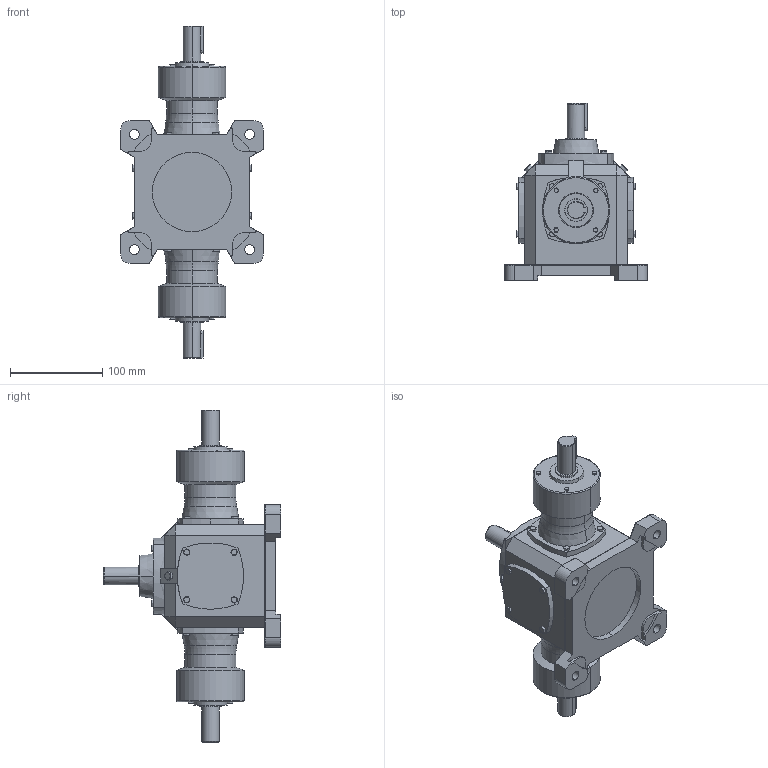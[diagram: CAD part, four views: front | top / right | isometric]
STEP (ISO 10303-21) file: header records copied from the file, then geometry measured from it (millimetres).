
FILE_DESCRIPTION (( 'STEP AP203' ), '1' );
FILE_NAME ('TC4-1-WSXH1-F4.step', '2018-07-14T07:03:16', ( 'IT Division' ), ( 'IT' ), 'SwSTEP 2.0', 'SolidWorks 2016', '' );
FILE_SCHEMA (( 'CONFIG_CONTROL_DESIGN' ));
Length unit declared in the file: millimetre
Products named in the file (1): TC4-1-WSXH1-F4
Bounding box: 155 x 192 x 360 mm (x, y, z)
Volume: 2267337 mm3; surface area: 179539.5 mm2
Topology: 3 solids, 3 shells, 662 faces, 1568 edges, 954 vertices
Faces by surface type: plane 321, cone 232, cylinder 97, torus 12
Entity records: 19892 total; most frequent: CARTESIAN_POINT 5110, ORIENTED_EDGE 3136, DIRECTION 2914, EDGE_CURVE 1568, AXIS2_PLACEMENT_3D 1080, VERTEX_POINT 954, LINE 754, VECTOR 754
